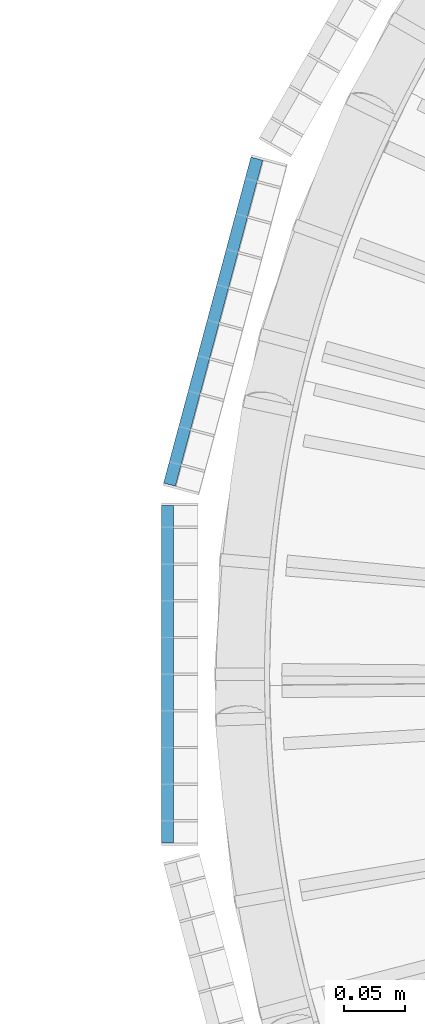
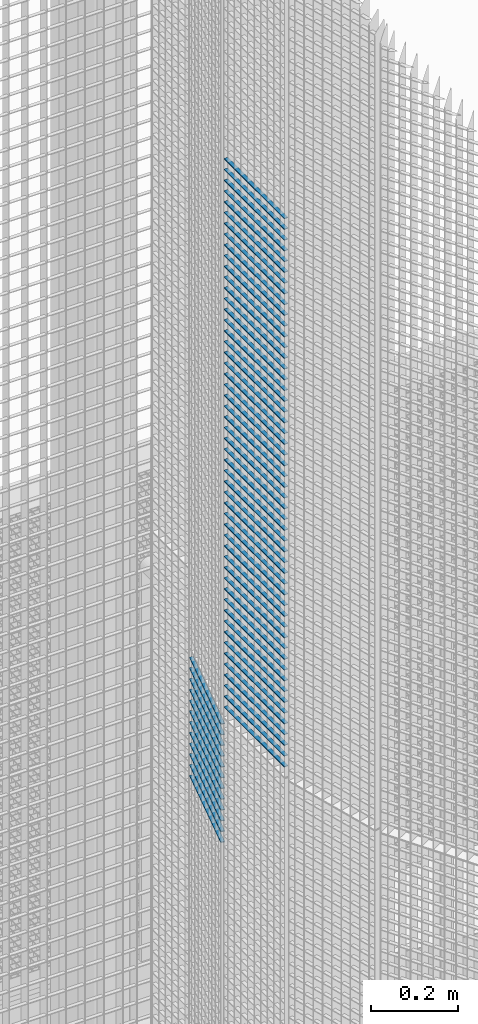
# One storey, part 189 of 1183: 64 beams, 2 elements without a shape of their own.
"""IFC2X3 building model written with IfcOpenShell, lengths in millimetres."""

from ifc_helpers import new_model, si_unit, frame, origin_with_axes, origin_2d_with_axis, place, context, subcontext, project, spatial, rectangle, extrude, material, type_object, element, aggregate, save


model = new_model("IFC2X3")

# Units and contexts
model_context = context("Model", 3, precision=1e-05, world=origin_with_axes())
body_context = subcontext(model_context, "Body", "Model", "MODEL_VIEW")
ifc_project = project(units=[si_unit("LENGTHUNIT", "METRE", prefix="MILLI"), si_unit("AREAUNIT", "SQUARE_METRE"), si_unit("VOLUMEUNIT", "CUBIC_METRE"), si_unit("MASSUNIT", "GRAM", prefix="KILO"), si_unit("TIMEUNIT", "SECOND"), si_unit("PLANEANGLEUNIT", "RADIAN"), si_unit("SOLIDANGLEUNIT", "STERADIAN"), si_unit("THERMODYNAMICTEMPERATUREUNIT", "DEGREE_CELSIUS"), si_unit("LUMINOUSINTENSITYUNIT", "LUMEN")], contexts=[model_context])

# Site, building, storey
site_placement = place(None, origin_with_axes())
site = spatial("IfcSite", under=ifc_project, at=site_placement, Name="Undefined", CompositionType="ELEMENT")
building_placement = place(site_placement, origin_with_axes())
building = spatial("IfcBuilding", under=site, at=building_placement, Name="Undefined", CompositionType="ELEMENT")
storey_placement = place(building_placement, origin_with_axes())
storey = spatial("IfcBuildingStorey", under=building, at=storey_placement, Name="Undefined", CompositionType="ELEMENT", Elevation=0.0)

# Assembly, beams
assembly_1_placement = place(storey_placement, origin_with_axes())
assembly_1 = element("IfcElementAssembly", 1, at=assembly_1_placement, inside=storey, Name="BORDURE", AssemblyPlace="NOTDEFINED", PredefinedType="NOTDEFINED")
ifc_material = material(Name="STEEL/S235JR")
beam_type = type_object("IfcBeamType", Name="PL2*10", PredefinedType="NOTDEFINED")
beam_1_placement = place(assembly_1_placement, frame((-1113.47999999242, 137.996003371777, 16560.0), z_axis=(-1.0, 0.0, 0.0), x_axis=(0.0, -1.0, 0.0)))
beam_1 = element("IfcBeam", 2, at=beam_1_placement, type_object=beam_type, material=ifc_material, Name="ENTRETOISE", context=body_context, shape_type="SweptSolid", body=[
    extrude(rectangle(XDim=2.0, YDim=10.0, at=origin_2d_with_axis()), frame((275.999999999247, 9.09494701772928e-13, 1.53210777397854e-14), z_axis=(-1.0, 0.0, 0.0), x_axis=(0.0, -1.0, 0.0)), (0.0, 0.0, 1.0), 276.0),
])
beam_2_placement = place(assembly_1_placement, frame((-1113.47999999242, 137.996003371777, 16530.0), z_axis=(-1.0, 0.0, 0.0), x_axis=(0.0, -1.0, 0.0)))
beam_2 = element("IfcBeam", 3, at=beam_2_placement, type_object=beam_type, material=ifc_material, Name="ENTRETOISE", context=body_context, shape_type="SweptSolid", body=[
    extrude(rectangle(XDim=2.0, YDim=10.0, at=origin_2d_with_axis()), frame((275.999999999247, 9.09494701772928e-13, 1.53210777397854e-14), z_axis=(-1.0, 0.0, 0.0), x_axis=(0.0, -1.0, 0.0)), (0.0, 0.0, 1.0), 276.0),
])
beam_3_placement = place(assembly_1_placement, frame((-1113.47999999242, 137.996003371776, 16500.0), z_axis=(-1.0, 0.0, 0.0), x_axis=(0.0, -1.0, 0.0)))
beam_3 = element("IfcBeam", 4, at=beam_3_placement, type_object=beam_type, material=ifc_material, Name="ENTRETOISE", context=body_context, shape_type="SweptSolid", body=[
    extrude(rectangle(XDim=2.0, YDim=10.0, at=origin_2d_with_axis()), frame((275.999999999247, 9.09494701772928e-13, 1.53210777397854e-14), z_axis=(-1.0, 0.0, 0.0), x_axis=(0.0, -1.0, 0.0)), (0.0, 0.0, 1.0), 276.0),
])
beam_4_placement = place(assembly_1_placement, frame((-1113.47999999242, 137.996003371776, 16470.0), z_axis=(-1.0, 0.0, 0.0), x_axis=(0.0, -1.0, 0.0)))
beam_4 = element("IfcBeam", 5, at=beam_4_placement, type_object=beam_type, material=ifc_material, Name="ENTRETOISE", context=body_context, shape_type="SweptSolid", body=[
    extrude(rectangle(XDim=2.0, YDim=10.0, at=origin_2d_with_axis()), frame((275.999999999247, 9.09494701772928e-13, 1.53210777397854e-14), z_axis=(-1.0, 0.0, 0.0), x_axis=(0.0, -1.0, 0.0)), (0.0, 0.0, 1.0), 276.0),
])
beam_5_placement = place(assembly_1_placement, frame((-1113.47999999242, 137.996003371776, 16440.0), z_axis=(-1.0, 0.0, 0.0), x_axis=(0.0, -1.0, 0.0)))
beam_5 = element("IfcBeam", 6, at=beam_5_placement, type_object=beam_type, material=ifc_material, Name="ENTRETOISE", context=body_context, shape_type="SweptSolid", body=[
    extrude(rectangle(XDim=2.0, YDim=10.0, at=origin_2d_with_axis()), frame((275.999999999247, 9.09494701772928e-13, 1.53210777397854e-14), z_axis=(-1.0, 0.0, 0.0), x_axis=(0.0, -1.0, 0.0)), (0.0, 0.0, 1.0), 276.0),
])
beam_6_placement = place(assembly_1_placement, frame((-1113.47999999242, 137.996003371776, 16410.0), z_axis=(-1.0, 0.0, 0.0), x_axis=(0.0, -1.0, 0.0)))
beam_6 = element("IfcBeam", 7, at=beam_6_placement, type_object=beam_type, material=ifc_material, Name="ENTRETOISE", context=body_context, shape_type="SweptSolid", body=[
    extrude(rectangle(XDim=2.0, YDim=10.0, at=origin_2d_with_axis()), frame((275.999999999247, 9.09494701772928e-13, 1.53210777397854e-14), z_axis=(-1.0, 0.0, 0.0), x_axis=(0.0, -1.0, 0.0)), (0.0, 0.0, 1.0), 276.0),
])
beam_7_placement = place(assembly_1_placement, frame((-1113.47999999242, 137.996003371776, 16380.0), z_axis=(-1.0, 0.0, 0.0), x_axis=(0.0, -1.0, 0.0)))
beam_7 = element("IfcBeam", 8, at=beam_7_placement, type_object=beam_type, material=ifc_material, Name="ENTRETOISE", context=body_context, shape_type="SweptSolid", body=[
    extrude(rectangle(XDim=2.0, YDim=10.0, at=origin_2d_with_axis()), frame((275.999999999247, 9.09494701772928e-13, 1.53210777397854e-14), z_axis=(-1.0, 0.0, 0.0), x_axis=(0.0, -1.0, 0.0)), (0.0, 0.0, 1.0), 276.0),
])
beam_8_placement = place(assembly_1_placement, frame((-1113.47999999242, 137.996003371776, 16350.0), z_axis=(-1.0, 0.0, 0.0), x_axis=(0.0, -1.0, 0.0)))
beam_8 = element("IfcBeam", 9, at=beam_8_placement, type_object=beam_type, material=ifc_material, Name="ENTRETOISE", context=body_context, shape_type="SweptSolid", body=[
    extrude(rectangle(XDim=2.0, YDim=10.0, at=origin_2d_with_axis()), frame((275.999999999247, 9.09494701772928e-13, 1.53210777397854e-14), z_axis=(-1.0, 0.0, 0.0), x_axis=(0.0, -1.0, 0.0)), (0.0, 0.0, 1.0), 276.0),
])
beam_9_placement = place(assembly_1_placement, frame((-1113.47999999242, 137.996003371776, 16320.0), z_axis=(-1.0, 0.0, 0.0), x_axis=(0.0, -1.0, 0.0)))
beam_9 = element("IfcBeam", 10, at=beam_9_placement, type_object=beam_type, material=ifc_material, Name="ENTRETOISE", context=body_context, shape_type="SweptSolid", body=[
    extrude(rectangle(XDim=2.0, YDim=10.0, at=origin_2d_with_axis()), frame((275.999999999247, 9.09494701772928e-13, 1.53210777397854e-14), z_axis=(-1.0, 0.0, 0.0), x_axis=(0.0, -1.0, 0.0)), (0.0, 0.0, 1.0), 276.0),
])
beam_10_placement = place(assembly_1_placement, frame((-1113.47999999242, 137.996003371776, 16290.0), z_axis=(-1.0, 0.0, 0.0), x_axis=(0.0, -1.0, 0.0)))
beam_10 = element("IfcBeam", 11, at=beam_10_placement, type_object=beam_type, material=ifc_material, Name="ENTRETOISE", context=body_context, shape_type="SweptSolid", body=[
    extrude(rectangle(XDim=2.0, YDim=10.0, at=origin_2d_with_axis()), frame((275.999999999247, 9.09494701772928e-13, 1.53210777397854e-14), z_axis=(-1.0, 0.0, 0.0), x_axis=(0.0, -1.0, 0.0)), (0.0, 0.0, 1.0), 276.0),
])
beam_11_placement = place(assembly_1_placement, frame((-1113.47999999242, 137.996003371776, 16260.0), z_axis=(-1.0, 0.0, 0.0), x_axis=(0.0, -1.0, 0.0)))
beam_11 = element("IfcBeam", 12, at=beam_11_placement, type_object=beam_type, material=ifc_material, Name="ENTRETOISE", context=body_context, shape_type="SweptSolid", body=[
    extrude(rectangle(XDim=2.0, YDim=10.0, at=origin_2d_with_axis()), frame((275.999999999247, 9.09494701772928e-13, 1.53210777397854e-14), z_axis=(-1.0, 0.0, 0.0), x_axis=(0.0, -1.0, 0.0)), (0.0, 0.0, 1.0), 276.0),
])
beam_12_placement = place(assembly_1_placement, frame((-1113.47999999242, 137.996003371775, 16230.0), z_axis=(-1.0, 0.0, 0.0), x_axis=(0.0, -1.0, 0.0)))
beam_12 = element("IfcBeam", 13, at=beam_12_placement, type_object=beam_type, material=ifc_material, Name="ENTRETOISE", context=body_context, shape_type="SweptSolid", body=[
    extrude(rectangle(XDim=2.0, YDim=10.0, at=origin_2d_with_axis()), frame((275.999999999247, 9.09494701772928e-13, 1.53210777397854e-14), z_axis=(-1.0, 0.0, 0.0), x_axis=(0.0, -1.0, 0.0)), (0.0, 0.0, 1.0), 276.0),
])
beam_13_placement = place(assembly_1_placement, frame((-1113.47999999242, 137.996003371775, 16200.0), z_axis=(-1.0, 0.0, 0.0), x_axis=(0.0, -1.0, 0.0)))
beam_13 = element("IfcBeam", 14, at=beam_13_placement, type_object=beam_type, material=ifc_material, Name="ENTRETOISE", context=body_context, shape_type="SweptSolid", body=[
    extrude(rectangle(XDim=2.0, YDim=10.0, at=origin_2d_with_axis()), frame((275.999999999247, 9.09494701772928e-13, 1.53210777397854e-14), z_axis=(-1.0, 0.0, 0.0), x_axis=(0.0, -1.0, 0.0)), (0.0, 0.0, 1.0), 276.0),
])
beam_14_placement = place(assembly_1_placement, frame((-1113.47999999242, 137.996003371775, 16170.0), z_axis=(-1.0, 0.0, 0.0), x_axis=(0.0, -1.0, 0.0)))
beam_14 = element("IfcBeam", 15, at=beam_14_placement, type_object=beam_type, material=ifc_material, Name="ENTRETOISE", context=body_context, shape_type="SweptSolid", body=[
    extrude(rectangle(XDim=2.0, YDim=10.0, at=origin_2d_with_axis()), frame((275.999999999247, 9.09494701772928e-13, 1.53210777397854e-14), z_axis=(-1.0, 0.0, 0.0), x_axis=(0.0, -1.0, 0.0)), (0.0, 0.0, 1.0), 276.0),
])
beam_15_placement = place(assembly_1_placement, frame((-1113.47999999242, 137.996003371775, 16140.0), z_axis=(-1.0, 0.0, 0.0), x_axis=(0.0, -1.0, 0.0)))
beam_15 = element("IfcBeam", 16, at=beam_15_placement, type_object=beam_type, material=ifc_material, Name="ENTRETOISE", context=body_context, shape_type="SweptSolid", body=[
    extrude(rectangle(XDim=2.0, YDim=10.0, at=origin_2d_with_axis()), frame((275.999999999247, 9.09494701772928e-13, 1.53210777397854e-14), z_axis=(-1.0, 0.0, 0.0), x_axis=(0.0, -1.0, 0.0)), (0.0, 0.0, 1.0), 276.0),
])
beam_16_placement = place(assembly_1_placement, frame((-1113.47999999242, 137.996003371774, 15720.0), z_axis=(-1.0, 0.0, 0.0), x_axis=(0.0, -1.0, 0.0)))
beam_16 = element("IfcBeam", 17, at=beam_16_placement, type_object=beam_type, material=ifc_material, Name="ENTRETOISE", context=body_context, shape_type="SweptSolid", body=[
    extrude(rectangle(XDim=2.0, YDim=10.0, at=origin_2d_with_axis()), frame((275.999999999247, 9.09494701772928e-13, 1.53210777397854e-14), z_axis=(-1.0, 0.0, 0.0), x_axis=(0.0, -1.0, 0.0)), (0.0, 0.0, 1.0), 276.0),
])
beam_17_placement = place(assembly_1_placement, frame((-1113.47999999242, 137.996003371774, 15690.0), z_axis=(-1.0, 0.0, 0.0), x_axis=(0.0, -1.0, 0.0)))
beam_17 = element("IfcBeam", 18, at=beam_17_placement, type_object=beam_type, material=ifc_material, Name="ENTRETOISE", context=body_context, shape_type="SweptSolid", body=[
    extrude(rectangle(XDim=2.0, YDim=10.0, at=origin_2d_with_axis()), frame((275.999999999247, 9.09494701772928e-13, 1.53210777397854e-14), z_axis=(-1.0, 0.0, 0.0), x_axis=(0.0, -1.0, 0.0)), (0.0, 0.0, 1.0), 276.0),
])
beam_18_placement = place(assembly_1_placement, frame((-1113.47999999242, 137.996003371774, 15750.0), z_axis=(-1.0, 0.0, 0.0), x_axis=(0.0, -1.0, 0.0)))
beam_18 = element("IfcBeam", 19, at=beam_18_placement, type_object=beam_type, material=ifc_material, Name="ENTRETOISE", context=body_context, shape_type="SweptSolid", body=[
    extrude(rectangle(XDim=2.0, YDim=10.0, at=origin_2d_with_axis()), frame((275.999999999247, 9.09494701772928e-13, 1.53210777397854e-14), z_axis=(-1.0, 0.0, 0.0), x_axis=(0.0, -1.0, 0.0)), (0.0, 0.0, 1.0), 276.0),
])
beam_19_placement = place(assembly_1_placement, frame((-1113.47999999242, 137.996003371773, 15660.0), z_axis=(-1.0, 0.0, 0.0), x_axis=(0.0, -1.0, 0.0)))
beam_19 = element("IfcBeam", 20, at=beam_19_placement, type_object=beam_type, material=ifc_material, Name="ENTRETOISE", context=body_context, shape_type="SweptSolid", body=[
    extrude(rectangle(XDim=2.0, YDim=10.0, at=origin_2d_with_axis()), frame((275.999999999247, 9.09494701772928e-13, 1.53210777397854e-14), z_axis=(-1.0, 0.0, 0.0), x_axis=(0.0, -1.0, 0.0)), (0.0, 0.0, 1.0), 276.0),
])
beam_20_placement = place(assembly_1_placement, frame((-1113.47999999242, 137.996003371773, 15630.0), z_axis=(-1.0, 0.0, 0.0), x_axis=(0.0, -1.0, 0.0)))
beam_20 = element("IfcBeam", 21, at=beam_20_placement, type_object=beam_type, material=ifc_material, Name="ENTRETOISE", context=body_context, shape_type="SweptSolid", body=[
    extrude(rectangle(XDim=2.0, YDim=10.0, at=origin_2d_with_axis()), frame((275.999999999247, 9.09494701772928e-13, 1.53210777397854e-14), z_axis=(-1.0, 0.0, 0.0), x_axis=(0.0, -1.0, 0.0)), (0.0, 0.0, 1.0), 276.0),
])
beam_21_placement = place(assembly_1_placement, frame((-1113.47999999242, 137.996003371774, 15780.0), z_axis=(-1.0, 0.0, 0.0), x_axis=(0.0, -1.0, 0.0)))
beam_21 = element("IfcBeam", 22, at=beam_21_placement, type_object=beam_type, material=ifc_material, Name="ENTRETOISE", context=body_context, shape_type="SweptSolid", body=[
    extrude(rectangle(XDim=2.0, YDim=10.0, at=origin_2d_with_axis()), frame((275.999999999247, 9.09494701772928e-13, 1.53210777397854e-14), z_axis=(-1.0, 0.0, 0.0), x_axis=(0.0, -1.0, 0.0)), (0.0, 0.0, 1.0), 276.0),
])
beam_22_placement = place(assembly_1_placement, frame((-1113.47999999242, 137.996003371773, 15600.0), z_axis=(-1.0, 0.0, 0.0), x_axis=(0.0, -1.0, 0.0)))
beam_22 = element("IfcBeam", 23, at=beam_22_placement, type_object=beam_type, material=ifc_material, Name="ENTRETOISE", context=body_context, shape_type="SweptSolid", body=[
    extrude(rectangle(XDim=2.0, YDim=10.0, at=origin_2d_with_axis()), frame((275.999999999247, 9.09494701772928e-13, 1.53210777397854e-14), z_axis=(-1.0, 0.0, 0.0), x_axis=(0.0, -1.0, 0.0)), (0.0, 0.0, 1.0), 276.0),
])
beam_23_placement = place(assembly_1_placement, frame((-1113.47999999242, 137.996003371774, 15810.0), z_axis=(-1.0, 0.0, 0.0), x_axis=(0.0, -1.0, 0.0)))
beam_23 = element("IfcBeam", 24, at=beam_23_placement, type_object=beam_type, material=ifc_material, Name="ENTRETOISE", context=body_context, shape_type="SweptSolid", body=[
    extrude(rectangle(XDim=2.0, YDim=10.0, at=origin_2d_with_axis()), frame((275.999999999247, 9.09494701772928e-13, 1.53210777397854e-14), z_axis=(-1.0, 0.0, 0.0), x_axis=(0.0, -1.0, 0.0)), (0.0, 0.0, 1.0), 276.0),
])
beam_24_placement = place(assembly_1_placement, frame((-1113.47999999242, 137.996003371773, 15570.0), z_axis=(-1.0, 0.0, 0.0), x_axis=(0.0, -1.0, 0.0)))
beam_24 = element("IfcBeam", 25, at=beam_24_placement, type_object=beam_type, material=ifc_material, Name="ENTRETOISE", context=body_context, shape_type="SweptSolid", body=[
    extrude(rectangle(XDim=2.0, YDim=10.0, at=origin_2d_with_axis()), frame((275.999999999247, 9.09494701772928e-13, 1.53210777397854e-14), z_axis=(-1.0, 0.0, 0.0), x_axis=(0.0, -1.0, 0.0)), (0.0, 0.0, 1.0), 276.0),
])
beam_25_placement = place(assembly_1_placement, frame((-1113.47999999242, 137.996003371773, 15540.0), z_axis=(-1.0, 0.0, 0.0), x_axis=(0.0, -1.0, 0.0)))
beam_25 = element("IfcBeam", 26, at=beam_25_placement, type_object=beam_type, material=ifc_material, Name="ENTRETOISE", context=body_context, shape_type="SweptSolid", body=[
    extrude(rectangle(XDim=2.0, YDim=10.0, at=origin_2d_with_axis()), frame((275.999999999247, 9.09494701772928e-13, 1.53210777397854e-14), z_axis=(-1.0, 0.0, 0.0), x_axis=(0.0, -1.0, 0.0)), (0.0, 0.0, 1.0), 276.0),
])
beam_26_placement = place(assembly_1_placement, frame((-1113.47999999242, 137.996003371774, 15840.0), z_axis=(-1.0, 0.0, 0.0), x_axis=(0.0, -1.0, 0.0)))
beam_26 = element("IfcBeam", 27, at=beam_26_placement, type_object=beam_type, material=ifc_material, Name="ENTRETOISE", context=body_context, shape_type="SweptSolid", body=[
    extrude(rectangle(XDim=2.0, YDim=10.0, at=origin_2d_with_axis()), frame((275.999999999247, 9.09494701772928e-13, 1.53210777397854e-14), z_axis=(-1.0, 0.0, 0.0), x_axis=(0.0, -1.0, 0.0)), (0.0, 0.0, 1.0), 276.0),
])
beam_27_placement = place(assembly_1_placement, frame((-1113.47999999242, 137.996003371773, 15510.0), z_axis=(-1.0, 0.0, 0.0), x_axis=(0.0, -1.0, 0.0)))
beam_27 = element("IfcBeam", 28, at=beam_27_placement, type_object=beam_type, material=ifc_material, Name="ENTRETOISE", context=body_context, shape_type="SweptSolid", body=[
    extrude(rectangle(XDim=2.0, YDim=10.0, at=origin_2d_with_axis()), frame((275.999999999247, 9.09494701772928e-13, 1.53210777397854e-14), z_axis=(-1.0, 0.0, 0.0), x_axis=(0.0, -1.0, 0.0)), (0.0, 0.0, 1.0), 276.0),
])
beam_28_placement = place(assembly_1_placement, frame((-1113.47999999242, 137.996003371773, 15480.0), z_axis=(-1.0, 0.0, 0.0), x_axis=(0.0, -1.0, 0.0)))
beam_28 = element("IfcBeam", 29, at=beam_28_placement, type_object=beam_type, material=ifc_material, Name="ENTRETOISE", context=body_context, shape_type="SweptSolid", body=[
    extrude(rectangle(XDim=2.0, YDim=10.0, at=origin_2d_with_axis()), frame((275.999999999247, 9.09494701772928e-13, 1.53210777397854e-14), z_axis=(-1.0, 0.0, 0.0), x_axis=(0.0, -1.0, 0.0)), (0.0, 0.0, 1.0), 276.0),
])
beam_29_placement = place(assembly_1_placement, frame((-1113.47999999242, 137.996003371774, 15870.0), z_axis=(-1.0, 0.0, 0.0), x_axis=(0.0, -1.0, 0.0)))
beam_29 = element("IfcBeam", 30, at=beam_29_placement, type_object=beam_type, material=ifc_material, Name="ENTRETOISE", context=body_context, shape_type="SweptSolid", body=[
    extrude(rectangle(XDim=2.0, YDim=10.0, at=origin_2d_with_axis()), frame((275.999999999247, 9.09494701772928e-13, 1.53210777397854e-14), z_axis=(-1.0, 0.0, 0.0), x_axis=(0.0, -1.0, 0.0)), (0.0, 0.0, 1.0), 276.0),
])
beam_30_placement = place(assembly_1_placement, frame((-1113.47999999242, 137.996003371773, 15450.0), z_axis=(-1.0, 0.0, 0.0), x_axis=(0.0, -1.0, 0.0)))
beam_30 = element("IfcBeam", 31, at=beam_30_placement, type_object=beam_type, material=ifc_material, Name="ENTRETOISE", context=body_context, shape_type="SweptSolid", body=[
    extrude(rectangle(XDim=2.0, YDim=10.0, at=origin_2d_with_axis()), frame((275.999999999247, 9.09494701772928e-13, 1.53210777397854e-14), z_axis=(-1.0, 0.0, 0.0), x_axis=(0.0, -1.0, 0.0)), (0.0, 0.0, 1.0), 276.0),
])
beam_31_placement = place(assembly_1_placement, frame((-1113.47999999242, 137.996003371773, 15420.0), z_axis=(-1.0, 0.0, 0.0), x_axis=(0.0, -1.0, 0.0)))
beam_31 = element("IfcBeam", 32, at=beam_31_placement, type_object=beam_type, material=ifc_material, Name="ENTRETOISE", context=body_context, shape_type="SweptSolid", body=[
    extrude(rectangle(XDim=2.0, YDim=10.0, at=origin_2d_with_axis()), frame((275.999999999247, 9.09494701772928e-13, 1.53210777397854e-14), z_axis=(-1.0, 0.0, 0.0), x_axis=(0.0, -1.0, 0.0)), (0.0, 0.0, 1.0), 276.0),
])
beam_32_placement = place(assembly_1_placement, frame((-1113.47999999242, 137.996003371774, 15900.0), z_axis=(-1.0, 0.0, 0.0), x_axis=(0.0, -1.0, 0.0)))
beam_32 = element("IfcBeam", 33, at=beam_32_placement, type_object=beam_type, material=ifc_material, Name="ENTRETOISE", context=body_context, shape_type="SweptSolid", body=[
    extrude(rectangle(XDim=2.0, YDim=10.0, at=origin_2d_with_axis()), frame((275.999999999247, 9.09494701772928e-13, 1.53210777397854e-14), z_axis=(-1.0, 0.0, 0.0), x_axis=(0.0, -1.0, 0.0)), (0.0, 0.0, 1.0), 276.0),
])
beam_33_placement = place(assembly_1_placement, frame((-1113.47999999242, 137.996003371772, 15390.0), z_axis=(-1.0, 0.0, 0.0), x_axis=(0.0, -1.0, 0.0)))
beam_33 = element("IfcBeam", 34, at=beam_33_placement, type_object=beam_type, material=ifc_material, Name="ENTRETOISE", context=body_context, shape_type="SweptSolid", body=[
    extrude(rectangle(XDim=2.0, YDim=10.0, at=origin_2d_with_axis()), frame((275.999999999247, 9.09494701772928e-13, 1.53210777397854e-14), z_axis=(-1.0, 0.0, 0.0), x_axis=(0.0, -1.0, 0.0)), (0.0, 0.0, 1.0), 276.0),
])
beam_34_placement = place(assembly_1_placement, frame((-1113.47999999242, 137.996003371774, 15930.0), z_axis=(-1.0, 0.0, 0.0), x_axis=(0.0, -1.0, 0.0)))
beam_34 = element("IfcBeam", 35, at=beam_34_placement, type_object=beam_type, material=ifc_material, Name="ENTRETOISE", context=body_context, shape_type="SweptSolid", body=[
    extrude(rectangle(XDim=2.0, YDim=10.0, at=origin_2d_with_axis()), frame((275.999999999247, 9.09494701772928e-13, 1.53210777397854e-14), z_axis=(-1.0, 0.0, 0.0), x_axis=(0.0, -1.0, 0.0)), (0.0, 0.0, 1.0), 276.0),
])
beam_35_placement = place(assembly_1_placement, frame((-1113.47999999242, 137.996003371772, 15360.0), z_axis=(-1.0, 0.0, 0.0), x_axis=(0.0, -1.0, 0.0)))
beam_35 = element("IfcBeam", 36, at=beam_35_placement, type_object=beam_type, material=ifc_material, Name="ENTRETOISE", context=body_context, shape_type="SweptSolid", body=[
    extrude(rectangle(XDim=2.0, YDim=10.0, at=origin_2d_with_axis()), frame((275.999999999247, 9.09494701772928e-13, 1.53210777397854e-14), z_axis=(-1.0, 0.0, 0.0), x_axis=(0.0, -1.0, 0.0)), (0.0, 0.0, 1.0), 276.0),
])
beam_36_placement = place(assembly_1_placement, frame((-1113.47999999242, 137.996003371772, 15330.0), z_axis=(-1.0, 0.0, 0.0), x_axis=(0.0, -1.0, 0.0)))
beam_36 = element("IfcBeam", 37, at=beam_36_placement, type_object=beam_type, material=ifc_material, Name="ENTRETOISE", context=body_context, shape_type="SweptSolid", body=[
    extrude(rectangle(XDim=2.0, YDim=10.0, at=origin_2d_with_axis()), frame((275.999999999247, 9.09494701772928e-13, 1.53210777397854e-14), z_axis=(-1.0, 0.0, 0.0), x_axis=(0.0, -1.0, 0.0)), (0.0, 0.0, 1.0), 276.0),
])
beam_37_placement = place(assembly_1_placement, frame((-1113.47999999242, 137.996003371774, 15960.0), z_axis=(-1.0, 0.0, 0.0), x_axis=(0.0, -1.0, 0.0)))
beam_37 = element("IfcBeam", 38, at=beam_37_placement, type_object=beam_type, material=ifc_material, Name="ENTRETOISE", context=body_context, shape_type="SweptSolid", body=[
    extrude(rectangle(XDim=2.0, YDim=10.0, at=origin_2d_with_axis()), frame((275.999999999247, 9.09494701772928e-13, 1.53210777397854e-14), z_axis=(-1.0, 0.0, 0.0), x_axis=(0.0, -1.0, 0.0)), (0.0, 0.0, 1.0), 276.0),
])
beam_38_placement = place(assembly_1_placement, frame((-1113.47999999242, 137.996003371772, 15300.0), z_axis=(-1.0, 0.0, 0.0), x_axis=(0.0, -1.0, 0.0)))
beam_38 = element("IfcBeam", 39, at=beam_38_placement, type_object=beam_type, material=ifc_material, Name="ENTRETOISE", context=body_context, shape_type="SweptSolid", body=[
    extrude(rectangle(XDim=2.0, YDim=10.0, at=origin_2d_with_axis()), frame((275.999999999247, 9.09494701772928e-13, 1.53210777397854e-14), z_axis=(-1.0, 0.0, 0.0), x_axis=(0.0, -1.0, 0.0)), (0.0, 0.0, 1.0), 276.0),
])
beam_39_placement = place(assembly_1_placement, frame((-1113.47999999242, 137.996003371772, 15270.0), z_axis=(-1.0, 0.0, 0.0), x_axis=(0.0, -1.0, 0.0)))
beam_39 = element("IfcBeam", 40, at=beam_39_placement, type_object=beam_type, material=ifc_material, Name="ENTRETOISE", context=body_context, shape_type="SweptSolid", body=[
    extrude(rectangle(XDim=2.0, YDim=10.0, at=origin_2d_with_axis()), frame((275.999999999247, 9.09494701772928e-13, 1.53210777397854e-14), z_axis=(-1.0, 0.0, 0.0), x_axis=(0.0, -1.0, 0.0)), (0.0, 0.0, 1.0), 276.0),
])
beam_40_placement = place(assembly_1_placement, frame((-1113.47999999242, 137.996003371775, 15990.0), z_axis=(-1.0, 0.0, 0.0), x_axis=(0.0, -1.0, 0.0)))
beam_40 = element("IfcBeam", 41, at=beam_40_placement, type_object=beam_type, material=ifc_material, Name="ENTRETOISE", context=body_context, shape_type="SweptSolid", body=[
    extrude(rectangle(XDim=2.0, YDim=10.0, at=origin_2d_with_axis()), frame((275.999999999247, 9.09494701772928e-13, 1.53210777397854e-14), z_axis=(-1.0, 0.0, 0.0), x_axis=(0.0, -1.0, 0.0)), (0.0, 0.0, 1.0), 276.0),
])
beam_41_placement = place(assembly_1_placement, frame((-1113.47999999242, 137.996003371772, 15240.0), z_axis=(-1.0, 0.0, 0.0), x_axis=(0.0, -1.0, 0.0)))
beam_41 = element("IfcBeam", 42, at=beam_41_placement, type_object=beam_type, material=ifc_material, Name="ENTRETOISE", context=body_context, shape_type="SweptSolid", body=[
    extrude(rectangle(XDim=2.0, YDim=10.0, at=origin_2d_with_axis()), frame((275.999999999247, 9.09494701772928e-13, 1.53210777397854e-14), z_axis=(-1.0, 0.0, 0.0), x_axis=(0.0, -1.0, 0.0)), (0.0, 0.0, 1.0), 276.0),
])
beam_42_placement = place(assembly_1_placement, frame((-1113.47999999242, 137.996003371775, 16020.0), z_axis=(-1.0, 0.0, 0.0), x_axis=(0.0, -1.0, 0.0)))
beam_42 = element("IfcBeam", 43, at=beam_42_placement, type_object=beam_type, material=ifc_material, Name="ENTRETOISE", context=body_context, shape_type="SweptSolid", body=[
    extrude(rectangle(XDim=2.0, YDim=10.0, at=origin_2d_with_axis()), frame((275.999999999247, 9.09494701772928e-13, 1.53210777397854e-14), z_axis=(-1.0, 0.0, 0.0), x_axis=(0.0, -1.0, 0.0)), (0.0, 0.0, 1.0), 276.0),
])
beam_43_placement = place(assembly_1_placement, frame((-1113.47999999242, 137.996003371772, 15210.0), z_axis=(-1.0, 0.0, 0.0), x_axis=(0.0, -1.0, 0.0)))
beam_43 = element("IfcBeam", 44, at=beam_43_placement, type_object=beam_type, material=ifc_material, Name="ENTRETOISE", context=body_context, shape_type="SweptSolid", body=[
    extrude(rectangle(XDim=2.0, YDim=10.0, at=origin_2d_with_axis()), frame((275.999999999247, 9.09494701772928e-13, 1.53210777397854e-14), z_axis=(-1.0, 0.0, 0.0), x_axis=(0.0, -1.0, 0.0)), (0.0, 0.0, 1.0), 276.0),
])
beam_44_placement = place(assembly_1_placement, frame((-1113.47999999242, 137.996003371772, 15180.0), z_axis=(-1.0, 0.0, 0.0), x_axis=(0.0, -1.0, 0.0)))
beam_44 = element("IfcBeam", 45, at=beam_44_placement, type_object=beam_type, material=ifc_material, Name="ENTRETOISE", context=body_context, shape_type="SweptSolid", body=[
    extrude(rectangle(XDim=2.0, YDim=10.0, at=origin_2d_with_axis()), frame((275.999999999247, 9.09494701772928e-13, 1.53210777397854e-14), z_axis=(-1.0, 0.0, 0.0), x_axis=(0.0, -1.0, 0.0)), (0.0, 0.0, 1.0), 276.0),
])
beam_45_placement = place(assembly_1_placement, frame((-1113.47999999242, 137.996003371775, 16050.0), z_axis=(-1.0, 0.0, 0.0), x_axis=(0.0, -1.0, 0.0)))
beam_45 = element("IfcBeam", 46, at=beam_45_placement, type_object=beam_type, material=ifc_material, Name="ENTRETOISE", context=body_context, shape_type="SweptSolid", body=[
    extrude(rectangle(XDim=2.0, YDim=10.0, at=origin_2d_with_axis()), frame((275.999999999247, 9.09494701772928e-13, 1.53210777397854e-14), z_axis=(-1.0, 0.0, 0.0), x_axis=(0.0, -1.0, 0.0)), (0.0, 0.0, 1.0), 276.0),
])
beam_46_placement = place(assembly_1_placement, frame((-1113.47999999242, 137.996003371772, 15150.0), z_axis=(-1.0, 0.0, 0.0), x_axis=(0.0, -1.0, 0.0)))
beam_46 = element("IfcBeam", 47, at=beam_46_placement, type_object=beam_type, material=ifc_material, Name="ENTRETOISE", context=body_context, shape_type="SweptSolid", body=[
    extrude(rectangle(XDim=2.0, YDim=10.0, at=origin_2d_with_axis()), frame((275.999999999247, 9.09494701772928e-13, 1.53210777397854e-14), z_axis=(-1.0, 0.0, 0.0), x_axis=(0.0, -1.0, 0.0)), (0.0, 0.0, 1.0), 276.0),
])
beam_47_placement = place(assembly_1_placement, frame((-1113.47999999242, 137.996003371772, 15120.0), z_axis=(-1.0, 0.0, 0.0), x_axis=(0.0, -1.0, 0.0)))
beam_47 = element("IfcBeam", 48, at=beam_47_placement, type_object=beam_type, material=ifc_material, Name="ENTRETOISE", context=body_context, shape_type="SweptSolid", body=[
    extrude(rectangle(XDim=2.0, YDim=10.0, at=origin_2d_with_axis()), frame((275.999999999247, 9.09494701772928e-13, 1.53210777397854e-14), z_axis=(-1.0, 0.0, 0.0), x_axis=(0.0, -1.0, 0.0)), (0.0, 0.0, 1.0), 276.0),
])
beam_48_placement = place(assembly_1_placement, frame((-1113.47999999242, 137.996003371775, 16080.0), z_axis=(-1.0, 0.0, 0.0), x_axis=(0.0, -1.0, 0.0)))
beam_48 = element("IfcBeam", 49, at=beam_48_placement, type_object=beam_type, material=ifc_material, Name="ENTRETOISE", context=body_context, shape_type="SweptSolid", body=[
    extrude(rectangle(XDim=2.0, YDim=10.0, at=origin_2d_with_axis()), frame((275.999999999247, 9.09494701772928e-13, 1.53210777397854e-14), z_axis=(-1.0, 0.0, 0.0), x_axis=(0.0, -1.0, 0.0)), (0.0, 0.0, 1.0), 276.0),
])
beam_49_placement = place(assembly_1_placement, frame((-1113.47999999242, 137.996003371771, 15090.0), z_axis=(-1.0, 0.0, 0.0), x_axis=(0.0, -1.0, 0.0)))
beam_49 = element("IfcBeam", 50, at=beam_49_placement, type_object=beam_type, material=ifc_material, Name="ENTRETOISE", context=body_context, shape_type="SweptSolid", body=[
    extrude(rectangle(XDim=2.0, YDim=10.0, at=origin_2d_with_axis()), frame((275.999999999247, 9.09494701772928e-13, 1.53210777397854e-14), z_axis=(-1.0, 0.0, 0.0), x_axis=(0.0, -1.0, 0.0)), (0.0, 0.0, 1.0), 276.0),
])
beam_50_placement = place(assembly_1_placement, frame((-1113.47999999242, 137.996003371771, 15060.0), z_axis=(-1.0, 0.0, 0.0), x_axis=(0.0, -1.0, 0.0)))
beam_50 = element("IfcBeam", 51, at=beam_50_placement, type_object=beam_type, material=ifc_material, Name="ENTRETOISE", context=body_context, shape_type="SweptSolid", body=[
    extrude(rectangle(XDim=2.0, YDim=10.0, at=origin_2d_with_axis()), frame((275.999999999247, 9.09494701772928e-13, 1.53210777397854e-14), z_axis=(-1.0, 0.0, 0.0), x_axis=(0.0, -1.0, 0.0)), (0.0, 0.0, 1.0), 276.0),
])
beam_51_placement = place(assembly_1_placement, frame((-1113.47999999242, 137.996003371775, 16110.0), z_axis=(-1.0, 0.0, 0.0), x_axis=(0.0, -1.0, 0.0)))
beam_51 = element("IfcBeam", 52, at=beam_51_placement, type_object=beam_type, material=ifc_material, Name="ENTRETOISE", context=body_context, shape_type="SweptSolid", body=[
    extrude(rectangle(XDim=2.0, YDim=10.0, at=origin_2d_with_axis()), frame((275.999999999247, 9.09494701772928e-13, 1.53210777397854e-14), z_axis=(-1.0, 0.0, 0.0), x_axis=(0.0, -1.0, 0.0)), (0.0, 0.0, 1.0), 276.0),
])
beam_52_placement = place(assembly_1_placement, frame((-1113.47999999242, 137.99600337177, 15030.0), z_axis=(-1.0, 0.0, 0.0), x_axis=(0.0, -1.0, 0.0)))
beam_52 = element("IfcBeam", 53, at=beam_52_placement, type_object=beam_type, material=ifc_material, Name="ENTRETOISE", context=body_context, shape_type="SweptSolid", body=[
    extrude(rectangle(XDim=2.0, YDim=10.0, at=origin_2d_with_axis()), frame((275.999999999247, 9.09494701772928e-13, 1.53210777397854e-14), z_axis=(-1.0, 0.0, 0.0), x_axis=(0.0, -1.0, 0.0)), (0.0, 0.0, 1.0), 276.0),
])
aggregate(assembly_1, [beam_1, beam_2, beam_3, beam_4, beam_5, beam_6, beam_7, beam_8, beam_9, beam_10, beam_11, beam_12, beam_13, beam_14, beam_15, beam_16, beam_17, beam_18, beam_19, beam_20, beam_21, beam_22, beam_23, beam_24, beam_25, beam_26, beam_27, beam_28, beam_29, beam_30, beam_31, beam_32, beam_33, beam_34, beam_35, beam_36, beam_37, beam_38, beam_39, beam_40, beam_41, beam_42, beam_43, beam_44, beam_45, beam_46, beam_47, beam_48, beam_49, beam_50, beam_51, beam_52])

assembly_2_placement = place(storey_placement, origin_with_axes())
assembly_2 = element("IfcElementAssembly", 54, at=assembly_2_placement, inside=storey, Name="BORDURE", AssemblyPlace="NOTDEFINED", PredefinedType="NOTDEFINED")
beam_53_placement = place(assembly_2_placement, frame((-1040.30888419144, 421.61803829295, 14970.0), z_axis=(-0.965925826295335, 0.258819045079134, 0.0), x_axis=(-0.258819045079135, -0.965925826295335, 0.0)))
beam_53 = element("IfcBeam", 55, at=beam_53_placement, type_object=beam_type, material=ifc_material, Name="ENTRETOISE", context=body_context, shape_type="SweptSolid", body=[
    extrude(rectangle(XDim=2.0, YDim=10.0, at=origin_2d_with_axis()), frame((275.999999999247, 9.09494701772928e-13, 1.53210777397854e-14), z_axis=(-1.0, 0.0, 0.0), x_axis=(0.0, -1.0, 0.0)), (0.0, 0.0, 1.0), 276.0),
])
beam_54_placement = place(assembly_2_placement, frame((-1040.30888419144, 421.61803829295, 14940.0), z_axis=(-0.965925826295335, 0.258819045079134, 0.0), x_axis=(-0.258819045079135, -0.965925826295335, 0.0)))
beam_54 = element("IfcBeam", 56, at=beam_54_placement, type_object=beam_type, material=ifc_material, Name="ENTRETOISE", context=body_context, shape_type="SweptSolid", body=[
    extrude(rectangle(XDim=2.0, YDim=10.0, at=origin_2d_with_axis()), frame((275.999999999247, 9.09494701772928e-13, 1.53210777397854e-14), z_axis=(-1.0, 0.0, 0.0), x_axis=(0.0, -1.0, 0.0)), (0.0, 0.0, 1.0), 276.0),
])
beam_55_placement = place(assembly_2_placement, frame((-1040.30888419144, 421.61803829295, 14910.0), z_axis=(-0.965925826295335, 0.258819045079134, 0.0), x_axis=(-0.258819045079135, -0.965925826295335, 0.0)))
beam_55 = element("IfcBeam", 57, at=beam_55_placement, type_object=beam_type, material=ifc_material, Name="ENTRETOISE", context=body_context, shape_type="SweptSolid", body=[
    extrude(rectangle(XDim=2.0, YDim=10.0, at=origin_2d_with_axis()), frame((275.999999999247, 9.09494701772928e-13, 1.53210777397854e-14), z_axis=(-1.0, 0.0, 0.0), x_axis=(0.0, -1.0, 0.0)), (0.0, 0.0, 1.0), 276.0),
])
beam_56_placement = place(assembly_2_placement, frame((-1040.30888419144, 421.61803829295, 14880.0), z_axis=(-0.965925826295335, 0.258819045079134, 0.0), x_axis=(-0.258819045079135, -0.965925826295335, 0.0)))
beam_56 = element("IfcBeam", 58, at=beam_56_placement, type_object=beam_type, material=ifc_material, Name="ENTRETOISE", context=body_context, shape_type="SweptSolid", body=[
    extrude(rectangle(XDim=2.0, YDim=10.0, at=origin_2d_with_axis()), frame((275.999999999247, 9.09494701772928e-13, 1.53210777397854e-14), z_axis=(-1.0, 0.0, 0.0), x_axis=(0.0, -1.0, 0.0)), (0.0, 0.0, 1.0), 276.0),
])
beam_57_placement = place(assembly_2_placement, frame((-1040.30888419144, 421.61803829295, 14850.0), z_axis=(-0.965925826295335, 0.258819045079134, 0.0), x_axis=(-0.258819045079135, -0.965925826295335, 0.0)))
beam_57 = element("IfcBeam", 59, at=beam_57_placement, type_object=beam_type, material=ifc_material, Name="ENTRETOISE", context=body_context, shape_type="SweptSolid", body=[
    extrude(rectangle(XDim=2.0, YDim=10.0, at=origin_2d_with_axis()), frame((275.999999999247, 9.09494701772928e-13, 1.53210777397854e-14), z_axis=(-1.0, 0.0, 0.0), x_axis=(0.0, -1.0, 0.0)), (0.0, 0.0, 1.0), 276.0),
])
beam_58_placement = place(assembly_2_placement, frame((-1040.30888419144, 421.61803829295, 14820.0), z_axis=(-0.965925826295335, 0.258819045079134, 0.0), x_axis=(-0.258819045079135, -0.965925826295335, 0.0)))
beam_58 = element("IfcBeam", 60, at=beam_58_placement, type_object=beam_type, material=ifc_material, Name="ENTRETOISE", context=body_context, shape_type="SweptSolid", body=[
    extrude(rectangle(XDim=2.0, YDim=10.0, at=origin_2d_with_axis()), frame((275.999999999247, 9.09494701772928e-13, 1.53210777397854e-14), z_axis=(-1.0, 0.0, 0.0), x_axis=(0.0, -1.0, 0.0)), (0.0, 0.0, 1.0), 276.0),
])
beam_59_placement = place(assembly_2_placement, frame((-1040.30888419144, 421.61803829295, 14790.0), z_axis=(-0.965925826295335, 0.258819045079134, 0.0), x_axis=(-0.258819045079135, -0.965925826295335, 0.0)))
beam_59 = element("IfcBeam", 61, at=beam_59_placement, type_object=beam_type, material=ifc_material, Name="ENTRETOISE", context=body_context, shape_type="SweptSolid", body=[
    extrude(rectangle(XDim=2.0, YDim=10.0, at=origin_2d_with_axis()), frame((275.999999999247, 9.09494701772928e-13, 1.53210777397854e-14), z_axis=(-1.0, 0.0, 0.0), x_axis=(0.0, -1.0, 0.0)), (0.0, 0.0, 1.0), 276.0),
])
beam_60_placement = place(assembly_2_placement, frame((-1040.30888419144, 421.61803829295, 14760.0), z_axis=(-0.965925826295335, 0.258819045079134, 0.0), x_axis=(-0.258819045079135, -0.965925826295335, 0.0)))
beam_60 = element("IfcBeam", 62, at=beam_60_placement, type_object=beam_type, material=ifc_material, Name="ENTRETOISE", context=body_context, shape_type="SweptSolid", body=[
    extrude(rectangle(XDim=2.0, YDim=10.0, at=origin_2d_with_axis()), frame((275.999999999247, 9.09494701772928e-13, 1.53210777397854e-14), z_axis=(-1.0, 0.0, 0.0), x_axis=(0.0, -1.0, 0.0)), (0.0, 0.0, 1.0), 276.0),
])
beam_61_placement = place(assembly_2_placement, frame((-1040.30888419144, 421.61803829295, 14730.0), z_axis=(-0.965925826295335, 0.258819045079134, 0.0), x_axis=(-0.258819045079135, -0.965925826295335, 0.0)))
beam_61 = element("IfcBeam", 63, at=beam_61_placement, type_object=beam_type, material=ifc_material, Name="ENTRETOISE", context=body_context, shape_type="SweptSolid", body=[
    extrude(rectangle(XDim=2.0, YDim=10.0, at=origin_2d_with_axis()), frame((275.999999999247, 9.09494701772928e-13, 1.53210777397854e-14), z_axis=(-1.0, 0.0, 0.0), x_axis=(0.0, -1.0, 0.0)), (0.0, 0.0, 1.0), 276.0),
])
beam_62_placement = place(assembly_2_placement, frame((-1040.30888419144, 421.618038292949, 14700.0), z_axis=(-0.965925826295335, 0.258819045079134, 0.0), x_axis=(-0.258819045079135, -0.965925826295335, 0.0)))
beam_62 = element("IfcBeam", 64, at=beam_62_placement, type_object=beam_type, material=ifc_material, Name="ENTRETOISE", context=body_context, shape_type="SweptSolid", body=[
    extrude(rectangle(XDim=2.0, YDim=10.0, at=origin_2d_with_axis()), frame((275.999999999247, 9.09494701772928e-13, 1.53210777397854e-14), z_axis=(-1.0, 0.0, 0.0), x_axis=(0.0, -1.0, 0.0)), (0.0, 0.0, 1.0), 276.0),
])
beam_63_placement = place(assembly_2_placement, frame((-1040.30888419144, 421.618038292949, 14670.0), z_axis=(-0.965925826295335, 0.258819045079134, 0.0), x_axis=(-0.258819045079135, -0.965925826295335, 0.0)))
beam_63 = element("IfcBeam", 65, at=beam_63_placement, type_object=beam_type, material=ifc_material, Name="ENTRETOISE", context=body_context, shape_type="SweptSolid", body=[
    extrude(rectangle(XDim=2.0, YDim=10.0, at=origin_2d_with_axis()), frame((275.999999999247, 9.09494701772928e-13, 1.53210777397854e-14), z_axis=(-1.0, 0.0, 0.0), x_axis=(0.0, -1.0, 0.0)), (0.0, 0.0, 1.0), 276.0),
])
beam_64_placement = place(assembly_2_placement, frame((-1040.30888419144, 421.618038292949, 14640.0), z_axis=(-0.965925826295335, 0.258819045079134, 0.0), x_axis=(-0.258819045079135, -0.965925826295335, 0.0)))
beam_64 = element("IfcBeam", 66, at=beam_64_placement, type_object=beam_type, material=ifc_material, Name="ENTRETOISE", context=body_context, shape_type="SweptSolid", body=[
    extrude(rectangle(XDim=2.0, YDim=10.0, at=origin_2d_with_axis()), frame((275.999999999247, 9.09494701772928e-13, 1.53210777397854e-14), z_axis=(-1.0, 0.0, 0.0), x_axis=(0.0, -1.0, 0.0)), (0.0, 0.0, 1.0), 276.0),
])
aggregate(assembly_2, [beam_53, beam_54, beam_55, beam_56, beam_57, beam_58, beam_59, beam_60, beam_61, beam_62, beam_63, beam_64])

save(model, "model.ifc")
